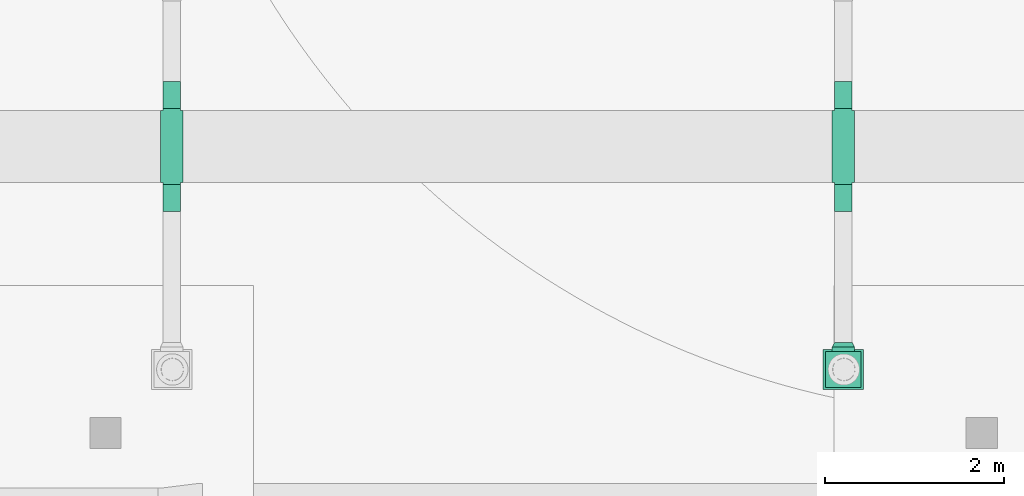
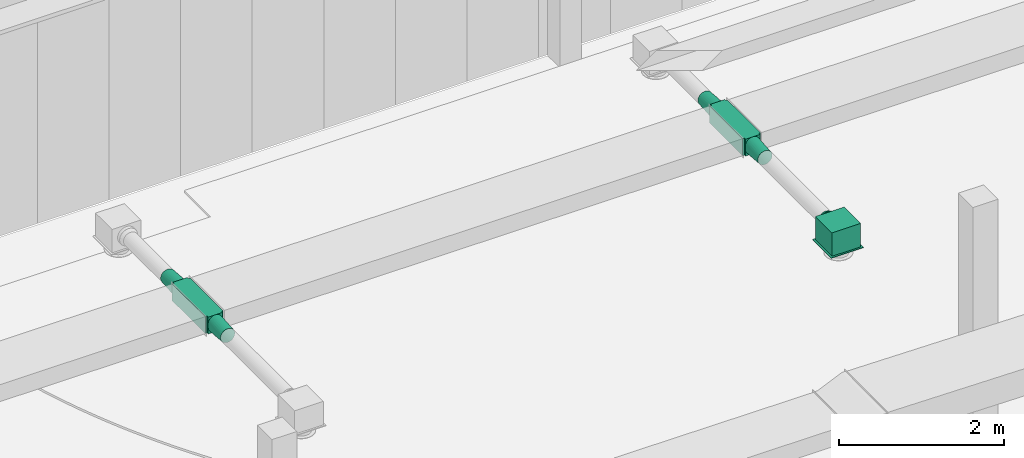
# One storey, part 272 of 302: 7 flow fittings, 1 flow terminal.
"""IFC2X3 building model written with IfcOpenShell, lengths in metres."""

from ifc_helpers import new_model, entity, si_unit, converted_unit, derived_unit, direction, frame, frame_2d, origin, origin_2d_with_axis, place, context, subcontext, project, spatial, polyline, rectangle, circle, outline, extrude, faceted_brep, source, transform, mapped, material, material_list, type_object, type_shapes, element, save


model = new_model("IFC2X3")

# Units and contexts
model_context = context("Model", 3, precision=1e-05, world=origin(), true_north=direction((6.12303176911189e-17, 1.0)))
body_context = subcontext(model_context, "Body", "Model", "MODEL_VIEW")
ifc_project = project(units=[si_unit("LENGTHUNIT", "METRE"), si_unit("AREAUNIT", "SQUARE_METRE"), si_unit("VOLUMEUNIT", "CUBIC_METRE"), converted_unit("PLANEANGLEUNIT", "DEGREE", entity("IfcRatioMeasure", 0.0174532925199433), si_unit("PLANEANGLEUNIT", "RADIAN"), dimensions=[0, 0, 0, 0, 0, 0, 0]), si_unit("MASSUNIT", "GRAM", prefix="KILO"), derived_unit("MASSDENSITYUNIT", [(si_unit("MASSUNIT", "GRAM", prefix="KILO"), 1), (si_unit("LENGTHUNIT", "METRE"), -3)]), derived_unit("MOMENTOFINERTIAUNIT", [(si_unit("LENGTHUNIT", "METRE"), 4)]), si_unit("TIMEUNIT", "SECOND"), si_unit("FREQUENCYUNIT", "HERTZ"), si_unit("THERMODYNAMICTEMPERATUREUNIT", "DEGREE_CELSIUS"), derived_unit("THERMALTRANSMITTANCEUNIT", [(si_unit("MASSUNIT", "GRAM", prefix="KILO"), 1), (si_unit("THERMODYNAMICTEMPERATUREUNIT", "KELVIN"), -1), (si_unit("TIMEUNIT", "SECOND"), -3)]), derived_unit("VOLUMETRICFLOWRATEUNIT", [(si_unit("LENGTHUNIT", "METRE"), 3), (si_unit("TIMEUNIT", "SECOND"), -1)]), si_unit("ELECTRICCURRENTUNIT", "AMPERE"), si_unit("ELECTRICVOLTAGEUNIT", "VOLT"), si_unit("POWERUNIT", "WATT"), si_unit("FORCEUNIT", "NEWTON", prefix="KILO"), si_unit("ILLUMINANCEUNIT", "LUX"), si_unit("LUMINOUSFLUXUNIT", "LUMEN"), si_unit("LUMINOUSINTENSITYUNIT", "CANDELA"), derived_unit("USERDEFINED", [(si_unit("MASSUNIT", "GRAM", prefix="KILO"), -1), (si_unit("LENGTHUNIT", "METRE"), -2), (si_unit("TIMEUNIT", "SECOND"), 3), (si_unit("LUMINOUSFLUXUNIT", "LUMEN"), 1)]), derived_unit("LINEARVELOCITYUNIT", [(si_unit("LENGTHUNIT", "METRE"), 1), (si_unit("TIMEUNIT", "SECOND"), -1)]), si_unit("PRESSUREUNIT", "PASCAL"), derived_unit("USERDEFINED", [(si_unit("LENGTHUNIT", "METRE"), -2), (si_unit("MASSUNIT", "GRAM", prefix="KILO"), 1), (si_unit("TIMEUNIT", "SECOND"), -2)]), derived_unit("LINEARFORCEUNIT", [(si_unit("MASSUNIT", "GRAM", prefix="KILO"), 1), (si_unit("LENGTHUNIT", "METRE"), 1), (si_unit("TIMEUNIT", "SECOND"), -2), (si_unit("LENGTHUNIT", "METRE"), -1)]), derived_unit("PLANARFORCEUNIT", [(si_unit("MASSUNIT", "GRAM", prefix="KILO"), 1), (si_unit("LENGTHUNIT", "METRE"), 1), (si_unit("TIMEUNIT", "SECOND"), -2), (si_unit("LENGTHUNIT", "METRE"), -2)])], contexts=[model_context])

# Site, building, storey
site_placement = place(None, origin())
site = spatial("IfcSite", under=ifc_project, at=site_placement, Name="Default", CompositionType="ELEMENT")
building_placement = place(site_placement, origin())
building = spatial("IfcBuilding", under=site, at=building_placement, CompositionType="ELEMENT")
storey_placement = place(building_placement, frame((0.0, 0.0, -1.3)))
storey = spatial("IfcBuildingStorey", under=building, at=storey_placement, Name="00_EG", CompositionType="ELEMENT", Elevation=-1.3)

# Flow fittings
ifc_material = material(Name="<Unnamed>")
duct_fitting_type_1 = type_object("IfcDuctFittingType", Name="STR_RCT_Cross:STR_Cross_RCT_GS_RA", PredefinedType="NOTDEFINED", material=ifc_material)
shared_shape_1 = source(origin(), body_context, "Body", "SweptSolid", [
    extrude(outline(polyline([(-0.424999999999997, 0.0999999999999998), (-0.424999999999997, -0.1), (-0.400000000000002, -0.1), (-0.400000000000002, -0.124999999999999), (0.399999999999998, -0.124999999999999), (0.399999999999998, -0.100000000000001), (0.425000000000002, -0.100000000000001), (0.425000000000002, 0.0999999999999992), (0.399999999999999, 0.0999999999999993), (0.399999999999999, 0.125000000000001), (-0.400000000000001, 0.125000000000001), (-0.400000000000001, 0.0999999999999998), (-0.424999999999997, 0.0999999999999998)])), frame((0.0, 0.0, -0.125000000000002), z_axis=(0.0, 0.0, -1.0), x_axis=(0.0, 1.0, 0.0)), (0.0, 0.0, -1.0), 0.25),
])
type_shapes(duct_fitting_type_1, [shared_shape_1])
for number, where, z_axis, x_axis in (
    (1, (-255.983284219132, 38.6082258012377, 4.91), (0.0, 0.0, 1.0), (-1.0, 0.0, 0.0)),
    (2, (-248.483293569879, 38.6082258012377, 4.91), (0.0, 0.0, 1.0), (-1.0, 0.0, 0.0)),
):
    element("IfcFlowFitting", number, at=place(storey_placement, frame(where, z_axis=z_axis, x_axis=x_axis)), inside=storey, type_object=duct_fitting_type_1, material=ifc_material, Name="STR_RCT_Cross:STR_Cross_RCT_GS_RA", ObjectType="STR_RCT_Cross:STR_Cross_RCT_GS_RA", context=body_context, shape_type="MappedRepresentation", body=[
        mapped(shared_shape_1, transform((0.0, 0.0, 0.0), scale=1.0)),
    ])
duct_fitting_type_2 = type_object("IfcDuctFittingType", Name="STR_OVL_Transition:STR_Transition_OVL_GS_EA", PredefinedType="NOTDEFINED", material=ifc_material)
shared_shape_2 = source(origin(), body_context, "Body", "Brep", [
    faceted_brep([(0.300000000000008, 0.0999999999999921, 0.00158749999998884), (0.300000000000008, 0.0966466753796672, 0.0270585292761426), (0.300000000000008, 0.0868152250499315, 0.050793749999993), (0.300000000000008, 0.0711756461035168, 0.0711756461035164), (0.300000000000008, 0.0507937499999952, 0.0868152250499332), (0.300000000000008, 0.0270585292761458, 0.0966466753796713), (0.300000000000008, 0.00158749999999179, 0.0999999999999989), (0.300000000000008, -0.00158750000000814, 0.0999999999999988), (0.300000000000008, -0.0270585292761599, 0.0966466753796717), (0.300000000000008, -0.0507937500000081, 0.0868152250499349), (0.300000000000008, -0.0711756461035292, 0.07117564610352), (0.300000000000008, -0.0868152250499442, 0.0507937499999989), (0.300000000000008, -0.0966466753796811, 0.0270585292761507), (0.300000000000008, -0.100000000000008, 0.00158749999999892), (0.300000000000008, -0.100000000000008, -0.00158750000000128), (0.300000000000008, -0.0966466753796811, -0.0270585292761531), (0.300000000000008, -0.0868152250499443, -0.0507937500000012), (0.300000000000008, -0.0711756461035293, -0.0711756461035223), (0.300000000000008, -0.0507937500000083, -0.0868152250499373), (0.300000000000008, -0.0270585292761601, -0.0966466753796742), (0.300000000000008, -0.00158750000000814, -0.100000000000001), (0.300000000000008, 0.0015874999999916, -0.100000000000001), (0.300000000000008, 0.0270585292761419, -0.0966466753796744), (0.300000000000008, 0.0507937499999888, -0.0868152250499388), (0.300000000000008, 0.0711756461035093, -0.0711756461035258), (0.300000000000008, 0.0868152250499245, -0.0507937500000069), (0.300000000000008, 0.0966466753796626, -0.0270585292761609), (0.300000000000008, 0.0999999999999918, -0.00158750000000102), (0.0, 0.00158749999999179, -0.125000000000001), (0.0, -0.00158750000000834, -0.125000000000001), (0.0, -0.0270585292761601, -0.121646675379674), (0.0, -0.0507937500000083, -0.111815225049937), (0.0, -0.0711756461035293, -0.0961756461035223), (0.0, -0.0868152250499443, -0.0757937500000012), (0.0, -0.0966466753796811, -0.0520585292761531), (0.0, -0.100000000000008, -0.026587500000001), (0.0, -0.100000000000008, 0.0265874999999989), (0.0, -0.0966466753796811, 0.0520585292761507), (0.0, -0.0868152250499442, 0.0757937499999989), (0.0, -0.0711756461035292, 0.0961756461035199), (0.0, -0.0507937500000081, 0.111815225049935), (0.0, -0.0270585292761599, 0.121646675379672), (0.0, -0.00158750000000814, 0.124999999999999), (0.0, 0.00158749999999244, 0.124999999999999), (0.0, 0.0270585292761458, 0.121646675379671), (0.0, 0.0507937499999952, 0.111815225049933), (0.0, 0.0711756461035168, 0.0961756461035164), (0.0, 0.0868152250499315, 0.0757937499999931), (0.0, 0.0966466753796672, 0.0520585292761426), (0.0, 0.0999999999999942, 0.026587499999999), (0.0, 0.0999999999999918, -0.0265875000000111), (0.0, 0.0966466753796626, -0.052058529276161), (0.0, 0.0868152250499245, -0.0757937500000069), (0.0, 0.0711756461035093, -0.0961756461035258), (0.0, 0.0507937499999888, -0.111815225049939), (0.0, 0.0270585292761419, -0.121646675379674), (0.154247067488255, -0.0203412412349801, 0.110342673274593), (0.145752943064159, -0.0981965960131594, 0.03319516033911), (0.107489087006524, -0.00158750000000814, 0.116042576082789), (0.149999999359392, -0.0614972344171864, 0.0921633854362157), (0.15000000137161, -0.0392483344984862, 0.105008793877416), (0.150000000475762, -0.0796633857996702, 0.0739972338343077), (0.192510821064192, -0.100000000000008, 0.0105449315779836), (0.149999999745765, -0.0925087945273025, 0.0517483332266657), (0.107489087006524, -0.100000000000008, -0.0176300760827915), (0.154247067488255, -0.0981965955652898, -0.0324873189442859), (0.145752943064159, -0.0203412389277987, -0.111050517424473), (0.149999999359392, -0.0796633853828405, -0.0739972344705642), (0.15000000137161, -0.0925087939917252, -0.0517483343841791), (0.150000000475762, -0.0614972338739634, -0.0921633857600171), (0.192511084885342, -0.00158750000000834, -0.10895740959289), (0.149999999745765, -0.0392483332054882, -0.105008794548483), (0.107489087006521, 0.0015874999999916, -0.116042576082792), (0.154247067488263, 0.0203412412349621, -0.110342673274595), (0.145752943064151, 0.0981965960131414, -0.0331951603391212), (0.149999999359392, 0.0614972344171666, -0.0921633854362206), (0.15000000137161, 0.0392483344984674, -0.105008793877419), (0.150000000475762, 0.0796633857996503, -0.0739972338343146), (0.192510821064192, 0.0999999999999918, -0.0105449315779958), (0.149999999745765, 0.0925087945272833, -0.0517483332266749), (0.107489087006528, 0.0999999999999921, 0.0176300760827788), (0.154247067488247, 0.0981965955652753, 0.0324873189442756), (0.145752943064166, 0.0203412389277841, 0.11105051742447), (0.149999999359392, 0.079663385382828, 0.0739972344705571), (0.15000000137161, 0.0925087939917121, 0.0517483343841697), (0.150000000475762, 0.0614972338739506, 0.0921633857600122), (0.192510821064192, 0.00158749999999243, 0.108957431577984), (0.149999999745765, 0.0392483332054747, 0.105008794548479)], [[[0, 1, 2, 3, 4, 5, 6, 7, 8, 9, 10, 11, 12, 13, 14, 15, 16, 17, 18, 19, 20, 21, 22, 23, 24, 25, 26, 27]], [[28, 29, 30, 31, 32, 33, 34, 35, 36, 37, 38, 39, 40, 41, 42, 43, 44, 45, 46, 47, 48, 49, 50, 51, 52, 53, 54, 55]], [[56, 42, 41]], [[36, 57, 37]], [[56, 7, 58, 42]], [[40, 39, 59]], [[41, 60, 56]], [[59, 60, 40]], [[61, 59, 39]], [[41, 40, 60]], [[8, 56, 60]], [[10, 9, 59]], [[9, 60, 59]], [[57, 36, 62, 13]], [[38, 37, 63]], [[63, 61, 38]], [[12, 57, 13]], [[12, 63, 57]], [[9, 8, 60]], [[10, 61, 11]], [[12, 11, 63]], [[63, 11, 61]], [[37, 57, 63]], [[61, 10, 59]], [[61, 39, 38]], [[7, 56, 8]], [[35, 64, 14, 13, 62, 36]], [[65, 35, 34]], [[29, 66, 30]], [[65, 14, 64, 35]], [[33, 32, 67]], [[34, 68, 65]], [[67, 68, 33]], [[69, 67, 32]], [[34, 33, 68]], [[15, 65, 68]], [[17, 16, 67]], [[16, 68, 67]], [[66, 29, 70, 20]], [[31, 30, 71]], [[71, 69, 31]], [[19, 66, 20]], [[19, 71, 66]], [[16, 15, 68]], [[17, 69, 18]], [[19, 18, 71]], [[71, 18, 69]], [[30, 66, 71]], [[69, 17, 67]], [[69, 32, 31]], [[14, 65, 15]], [[28, 72, 21, 20, 70, 29]], [[73, 28, 55]], [[50, 74, 51]], [[73, 21, 72, 28]], [[54, 53, 75]], [[55, 76, 73]], [[75, 76, 54]], [[77, 75, 53]], [[55, 54, 76]], [[22, 73, 76]], [[24, 23, 75]], [[23, 76, 75]], [[74, 50, 78, 27]], [[52, 51, 79]], [[79, 77, 52]], [[26, 74, 27]], [[26, 79, 74]], [[23, 22, 76]], [[24, 77, 25]], [[26, 25, 79]], [[79, 25, 77]], [[51, 74, 79]], [[77, 24, 75]], [[77, 53, 52]], [[21, 73, 22]], [[49, 80, 0, 27, 78, 50]], [[81, 49, 48]], [[43, 82, 44]], [[81, 0, 80, 49]], [[47, 46, 83]], [[48, 84, 81]], [[83, 84, 47]], [[85, 83, 46]], [[48, 47, 84]], [[1, 81, 84]], [[3, 2, 83]], [[2, 84, 83]], [[82, 43, 86, 6]], [[45, 44, 87]], [[87, 85, 45]], [[5, 82, 6]], [[5, 87, 82]], [[2, 1, 84]], [[3, 85, 4]], [[5, 4, 87]], [[87, 4, 85]], [[44, 82, 87]], [[85, 3, 83]], [[85, 46, 45]], [[0, 81, 1]], [[42, 58, 7, 6, 86, 43]]]),
])
type_shapes(duct_fitting_type_2, [shared_shape_2])
for number, where, z_axis, x_axis in (
    (3, (-255.983284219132, 39.0332258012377, 4.91), (0.0, 0.0, 1.0), (0.0, 1.0, 0.0)),
    (4, (-255.983284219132, 38.1832258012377, 4.91), (0.0, 0.0, 1.0), (0.0, -1.0, 0.0)),
    (5, (-248.483293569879, 39.0332258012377, 4.91), (0.0, 0.0, 1.0), (0.0, 1.0, 0.0)),
    (6, (-248.483293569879, 38.1832258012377, 4.91), (0.0, 0.0, 1.0), (0.0, -1.0, 0.0)),
):
    element("IfcFlowFitting", number, at=place(storey_placement, frame(where, z_axis=z_axis, x_axis=x_axis)), inside=storey, type_object=duct_fitting_type_2, material=ifc_material, Name="STR_OVL_Transition:STR_Transition_OVL_GS_EA", ObjectType="STR_OVL_Transition:STR_Transition_OVL_GS_EA", context=body_context, shape_type="MappedRepresentation", body=[
        mapped(shared_shape_2, transform((0.0, 0.0, 0.0), scale=1.0)),
    ])
duct_fitting_type_3 = type_object("IfcDuctFittingType", Name="STR_RND_Transition:STR_Transition_RND_GS_EA", PredefinedType="NOTDEFINED", material=ifc_material)
shared_shape_3 = source(origin(), body_context, "Body", "Brep", [
    faceted_brep([(0.0500000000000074, -0.073473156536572, -0.1011271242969), (0.0500000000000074, -0.0386271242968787, -0.118882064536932), (0.0500000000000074, 0.0, -0.12500000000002), (0.0500000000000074, 0.0386271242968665, -0.11888206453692), (0.0500000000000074, 0.073473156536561, -0.101127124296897), (0.0500000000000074, 0.101127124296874, -0.0734731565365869), (0.0500000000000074, 0.1188820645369, -0.038627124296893), (0.0500000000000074, 0.124999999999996, 0.0), (0.0500000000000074, 0.118882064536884, 0.0386271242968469), (0.0500000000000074, 0.101127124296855, 0.073473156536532), (0.0500000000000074, 0.0734731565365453, 0.101127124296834), (0.0500000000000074, 0.0386271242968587, 0.118882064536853), (0.0500000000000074, 0.0, 0.12499999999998), (0.0500000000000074, -0.0386271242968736, 0.118882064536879), (0.0500000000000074, -0.0734731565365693, 0.101127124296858), (0.0500000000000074, -0.101127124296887, 0.0734731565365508), (0.0500000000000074, -0.118882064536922, 0.0386271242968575), (0.0500000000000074, -0.125000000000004, 0.0), (0.0500000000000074, -0.118882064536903, -0.0386271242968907), (0.0500000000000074, -0.101127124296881, -0.0734731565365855), (0.0, 0.0309016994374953, -0.0951056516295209), (0.0, 0.0, -0.100000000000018), (0.0, -0.0309016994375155, -0.0951056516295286), (0.0, -0.0587785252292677, -0.0809016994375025), (0.0, -0.0809016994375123, -0.0587785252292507), (0.0, -0.0951056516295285, -0.0309016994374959), (0.0, -0.100000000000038, 0.0), (0.0, -0.0951056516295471, 0.0309016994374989), (0.0, -0.0809016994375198, 0.0587785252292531), (0.0, -0.058778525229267, 0.0809016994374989), (0.0, -0.0309016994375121, 0.0951056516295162), (0.0, 0.0, 0.0999999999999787), (0.0, 0.0309016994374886, 0.0951056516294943), (0.0, 0.0587785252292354, 0.0809016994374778), (0.0, 0.0809016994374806, 0.0587785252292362), (0.0, 0.0951056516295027, 0.0309016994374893), (0.0, 0.0999999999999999, 0.0), (0.0, 0.0951056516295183, -0.0309016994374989), (0.0, 0.0809016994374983, -0.0587785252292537), (0.0, 0.0587785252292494, -0.0809016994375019)], [[[0, 1, 2, 3, 4, 5, 6, 7, 8, 9, 10, 11, 12, 13, 14, 15, 16, 17, 18, 19]], [[20, 21, 22, 23, 24, 25, 26, 27, 28, 29, 30, 31, 32, 33, 34, 35, 36, 37, 38, 39]], [[35, 34, 9, 8]], [[36, 35, 8, 7]], [[34, 33, 10, 9]], [[10, 33, 32, 11]], [[11, 32, 31, 12]], [[30, 29, 14, 13]], [[31, 30, 13, 12]], [[29, 28, 15, 14]], [[15, 28, 27, 16]], [[16, 27, 26, 17]], [[25, 24, 19, 18]], [[26, 25, 18, 17]], [[24, 23, 0, 19]], [[0, 23, 22, 1]], [[1, 22, 21, 2]], [[20, 39, 4, 3]], [[21, 20, 3, 2]], [[39, 38, 5, 4]], [[5, 38, 37, 6]], [[6, 37, 36, 7]]]),
])
type_shapes(duct_fitting_type_3, [shared_shape_3])
flow_fitting_placement = place(storey_placement, frame((-248.483293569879, 36.4181484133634, 4.90999999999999), z_axis=(0.0, 0.0, 1.0), x_axis=(0.0, -1.0, 0.0)))
element("IfcFlowFitting", 7, at=flow_fitting_placement, inside=storey, type_object=duct_fitting_type_3, material=ifc_material, Name="STR_RND_Transition:STR_Transition_RND_GS_EA", ObjectType="STR_RND_Transition:STR_Transition_RND_GS_EA", context=body_context, shape_type="MappedRepresentation", body=[
    mapped(shared_shape_3, transform((0.0, 0.0, 0.0), scale=1.0)),
])

# Flow terminal
ifc_material_list = material_list([ifc_material, ifc_material, ifc_material])
air_terminal_type = type_object("IfcAirTerminalType", Name="Drallauslass Zuluft seitlich:600 quadratisch", PredefinedType="NOTDEFINED", material=ifc_material_list)
shared_shape_4 = source(origin(), body_context, "Body", "SweptSolid", [
    extrude(rectangle(XDim=0.450000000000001, YDim=0.449999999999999, at=origin_2d_with_axis()), frame((0.0, 0.0, 2.692), z_axis=(0.0, 0.0, 1.0), x_axis=(0.0, 1.0, 0.0)), (0.0, 0.0, 1.0), 0.00800000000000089),
    extrude(circle(Radius=0.125, at=frame_2d((1.22275294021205e-18, -5.41433564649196e-16), x_axis=(1.0, 0.0))), frame((-0.25, 0.0, 2.89500000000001), z_axis=(1.0, 0.0, 0.0), x_axis=(0.0, -1.0, 0.0)), (0.0, 0.0, 1.0), 0.0499999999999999),
    extrude(rectangle(XDim=0.4, YDim=0.399999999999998, at=origin_2d_with_axis()), frame((0.0, 0.0, 2.7), z_axis=(0.0, 0.0, 1.0), x_axis=(0.0, 1.0, 0.0)), (0.0, 0.0, 1.0), 0.345000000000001),
])
type_shapes(air_terminal_type, [shared_shape_4])
flow_terminal_placement = place(storey_placement, frame((-248.483293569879, 36.1181484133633, 2.01499999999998), z_axis=(0.0, 0.0, 1.0), x_axis=(0.0, -1.0, 0.0)))
element("IfcFlowTerminal", 8, at=flow_terminal_placement, inside=storey, type_object=air_terminal_type, material=ifc_material, Name="Drallauslass Zuluft seitlich:600 quadratisch", ObjectType="Drallauslass Zuluft seitlich:600 quadratisch", context=body_context, shape_type="MappedRepresentation", body=[
    mapped(shared_shape_4, transform((0.0, 0.0, 0.0), scale=1.0)),
])

save(model, "model.ifc")
